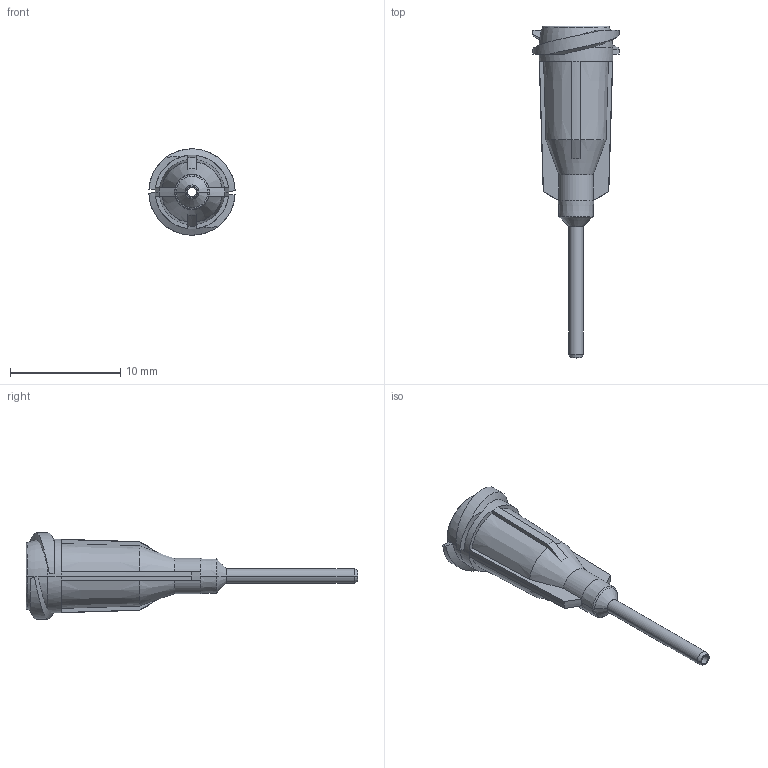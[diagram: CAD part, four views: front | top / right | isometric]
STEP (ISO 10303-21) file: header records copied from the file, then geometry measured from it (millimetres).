
FILE_DESCRIPTION (( 'STEP AP214' ), '1' );
FILE_NAME ('NORDSONEFD-7018128 TIP 18GA GP 033 X 05 CMF GN.STEP', '2019-04-29T07:39:41', ( '' ), ( '' ), 'SwSTEP 2.0', 'SolidWorks 2019', '' );
FILE_SCHEMA (( 'AUTOMOTIVE_DESIGN' ));
Length unit declared in the file: inch
Products named in the file (1): NORDSONEFD-7018128 TIP 18GA GP 033 X 05 CMF GN
Bounding box: 7.82 x 30.07 x 7.82 mm (x, y, z)
Volume: 269.8 mm3; surface area: 634.8 mm2
Topology: 1 solids, 1 shells, 98 faces, 228 edges, 136 vertices
Faces by surface type: plane 26, cone 24, torus 20, cylinder 16, bspline 12
Entity records: 3318 total; most frequent: CARTESIAN_POINT 997, DIRECTION 458, ORIENTED_EDGE 456, EDGE_CURVE 228, AXIS2_PLACEMENT_3D 199, VERTEX_POINT 136, CIRCLE 112, EDGE_LOOP 104
